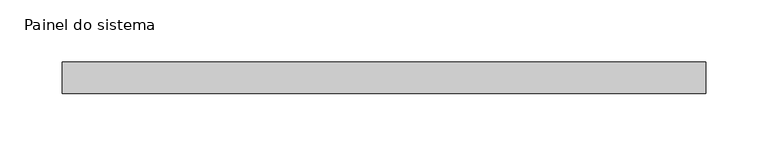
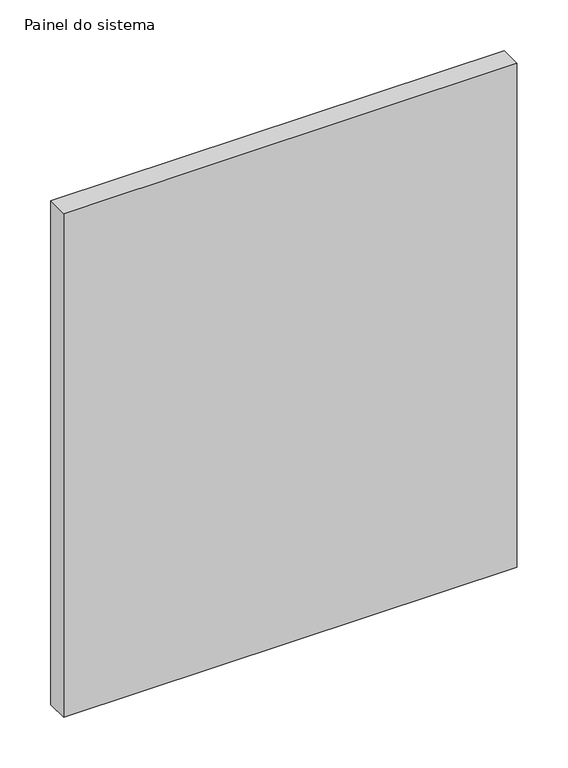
"""IFC4 building model written with IfcOpenShell, lengths in millimetres: plate geometry, Painel do sistema : Envidraçado."""

from ifc_helpers import new_model, si_unit, origin, origin_with_axes, place, context, project, spatial, polyline, outline, extrude, source, transform, mapped, element, save


def painel_do_sistema_a2503f67(model_context):
    return source(origin(), model_context, "Body", "SweptSolid", [
        extrude(outline(polyline([(257.5, -49.5), (-257.5, -49.5), (-257.5, -24.5), (257.5, -24.5), (257.5, -49.5)])), origin_with_axes(), (0.0, 0.0, 1.0), 605.0),
    ])


if __name__ == "__main__":
    model = new_model("IFC4")
    model_context = context("Model", 3, world=origin())
    ifc_project = project(units=[si_unit("LENGTHUNIT", "METRE", prefix="MILLI")], contexts=[model_context])
    site = spatial("IfcSite", under=ifc_project)
    building = spatial("IfcBuilding", under=site)
    placement = place(None, origin())
    painel_do_sistema_shape = painel_do_sistema_a2503f67(model_context)
    element("IfcPlate", 1, ObjectType="Painel do sistema : Envidraçado", at=placement, inside=building, context=model_context, shape_type="MappedRepresentation", body=[
        mapped(painel_do_sistema_shape, transform((0.0, 0.0, 0.0), x_axis=(1.0, 0.0, 0.0), y_axis=(0.0, 1.0, 0.0), z_axis=(0.0, 0.0, 1.0))),
    ])
    save(model, "model.ifc")
